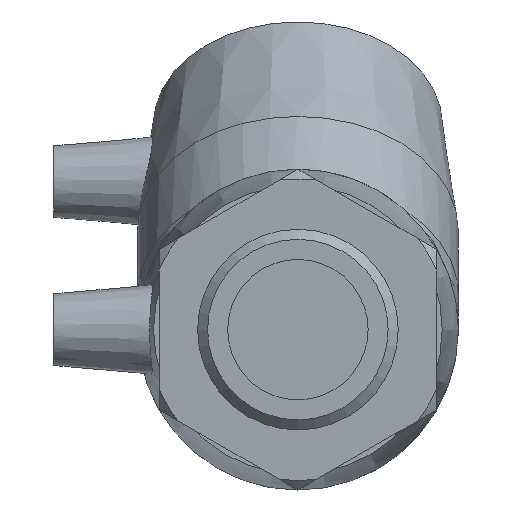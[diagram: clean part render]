
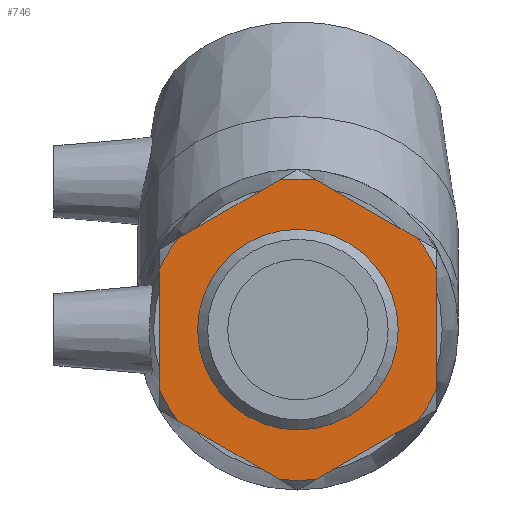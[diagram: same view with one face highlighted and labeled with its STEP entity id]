
A CAD part, left-side view. The second image highlights one B-rep face of the part: STEP entity #746.
In plain terms, the highlighted planar face has unit normal (-1, 0, 0).
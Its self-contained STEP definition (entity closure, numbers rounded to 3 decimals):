
#19=LINE('',#1163,#37);
#23=LINE('',#1187,#41);
#26=LINE('',#1209,#44);
#29=LINE('',#1231,#47);
#34=LINE('',#1268,#52);
#36=LINE('',#1287,#54);
#37=VECTOR('',#926,24.489);
#41=VECTOR('',#932,24.489);
#44=VECTOR('',#937,24.489);
#47=VECTOR('',#942,24.489);
#52=VECTOR('',#949,24.489);
#54=VECTOR('',#953,24.489);
#101=PLANE('',#813);
#121=FACE_BOUND('',#228,.T.);
#165=FACE_OUTER_BOUND('',#227,.T.);
#227=EDGE_LOOP('',(#584,#585,#586,#587,#588,#589,#590,#591,#592,#593,#594,
#595));
#228=EDGE_LOOP('',(#596));
#315=CIRCLE('',#806,20.955);
#316=CIRCLE('',#814,31.49);
#317=CIRCLE('',#815,31.49);
#318=CIRCLE('',#816,31.49);
#319=CIRCLE('',#817,31.49);
#320=CIRCLE('',#818,31.49);
#321=CIRCLE('',#819,31.49);
#364=VERTEX_POINT('',#1154);
#365=VERTEX_POINT('',#1157);
#367=VERTEX_POINT('',#1162);
#373=VERTEX_POINT('',#1182);
#374=VERTEX_POINT('',#1186);
#379=VERTEX_POINT('',#1204);
#380=VERTEX_POINT('',#1208);
#385=VERTEX_POINT('',#1226);
#386=VERTEX_POINT('',#1230);
#392=VERTEX_POINT('',#1249);
#396=VERTEX_POINT('',#1264);
#397=VERTEX_POINT('',#1270);
#400=VERTEX_POINT('',#1283);
#439=EDGE_CURVE('',#364,#364,#315,.T.);
#441=EDGE_CURVE('',#367,#365,#19,.T.);
#449=EDGE_CURVE('',#374,#373,#23,.T.);
#456=EDGE_CURVE('',#380,#379,#26,.T.);
#463=EDGE_CURVE('',#386,#385,#29,.T.);
#475=EDGE_CURVE('',#392,#396,#34,.T.);
#481=EDGE_CURVE('',#397,#400,#36,.T.);
#482=EDGE_CURVE('',#392,#400,#316,.T.);
#483=EDGE_CURVE('',#386,#396,#317,.T.);
#484=EDGE_CURVE('',#380,#385,#318,.T.);
#485=EDGE_CURVE('',#374,#379,#319,.T.);
#486=EDGE_CURVE('',#367,#373,#320,.T.);
#487=EDGE_CURVE('',#397,#365,#321,.T.);
#584=ORIENTED_EDGE('',*,*,#481,.T.);
#585=ORIENTED_EDGE('',*,*,#482,.F.);
#586=ORIENTED_EDGE('',*,*,#475,.T.);
#587=ORIENTED_EDGE('',*,*,#483,.F.);
#588=ORIENTED_EDGE('',*,*,#463,.T.);
#589=ORIENTED_EDGE('',*,*,#484,.F.);
#590=ORIENTED_EDGE('',*,*,#456,.T.);
#591=ORIENTED_EDGE('',*,*,#485,.F.);
#592=ORIENTED_EDGE('',*,*,#449,.T.);
#593=ORIENTED_EDGE('',*,*,#486,.F.);
#594=ORIENTED_EDGE('',*,*,#441,.T.);
#595=ORIENTED_EDGE('',*,*,#487,.F.);
#596=ORIENTED_EDGE('',*,*,#439,.T.);
#746=ADVANCED_FACE('',(#165,#121),#101,.T.);
#806=AXIS2_PLACEMENT_3D('',#1155,#922,#923);
#813=AXIS2_PLACEMENT_3D('',#1288,#954,#955);
#814=AXIS2_PLACEMENT_3D('',#1289,#956,#957);
#815=AXIS2_PLACEMENT_3D('',#1290,#958,#959);
#816=AXIS2_PLACEMENT_3D('',#1291,#960,#961);
#817=AXIS2_PLACEMENT_3D('',#1292,#962,#963);
#818=AXIS2_PLACEMENT_3D('',#1293,#964,#965);
#819=AXIS2_PLACEMENT_3D('',#1294,#966,#967);
#922=DIRECTION('center_axis',(1.,0.,0.));
#923=DIRECTION('ref_axis',(0.,0.,-1.));
#926=DIRECTION('',(0.,0.,-1.));
#932=DIRECTION('',(0.,0.866,-0.5));
#937=DIRECTION('',(0.,0.866,0.5));
#942=DIRECTION('',(0.,0.,1.));
#949=DIRECTION('',(0.,-0.866,0.5));
#953=DIRECTION('',(0.,-0.866,-0.5));
#954=DIRECTION('center_axis',(-1.,0.,0.));
#955=DIRECTION('ref_axis',(0.,0.,1.));
#956=DIRECTION('center_axis',(1.,0.,0.));
#957=DIRECTION('ref_axis',(0.,0.,1.));
#958=DIRECTION('center_axis',(1.,0.,0.));
#959=DIRECTION('ref_axis',(0.,0.,1.));
#960=DIRECTION('center_axis',(1.,0.,0.));
#961=DIRECTION('ref_axis',(0.,0.,1.));
#962=DIRECTION('center_axis',(1.,0.,0.));
#963=DIRECTION('ref_axis',(0.,0.,1.));
#964=DIRECTION('center_axis',(1.,0.,0.));
#965=DIRECTION('ref_axis',(0.,0.,1.));
#966=DIRECTION('center_axis',(1.,0.,0.));
#967=DIRECTION('ref_axis',(0.,0.,1.));
#1154=CARTESIAN_POINT('',(-69.835,0.,-20.955));
#1155=CARTESIAN_POINT('Origin',(-69.835,0.,0.));
#1157=CARTESIAN_POINT('',(-69.835,29.012,-12.245));
#1162=CARTESIAN_POINT('',(-69.835,29.012,12.245));
#1163=CARTESIAN_POINT('',(-69.835,29.012,-25.125));
#1182=CARTESIAN_POINT('',(-69.835,25.11,19.003));
#1186=CARTESIAN_POINT('',(-69.835,3.902,31.247));
#1187=CARTESIAN_POINT('',(-69.835,29.012,16.75));
#1204=CARTESIAN_POINT('',(-69.835,-3.902,31.247));
#1208=CARTESIAN_POINT('',(-69.835,-25.11,19.003));
#1209=CARTESIAN_POINT('',(-69.835,-14.506,25.125));
#1226=CARTESIAN_POINT('',(-69.835,-29.012,12.245));
#1230=CARTESIAN_POINT('',(-69.835,-29.012,-12.245));
#1231=CARTESIAN_POINT('',(-69.835,-29.012,-8.375));
#1249=CARTESIAN_POINT('',(-69.835,-3.902,-31.247));
#1264=CARTESIAN_POINT('',(-69.835,-25.11,-19.003));
#1268=CARTESIAN_POINT('',(-69.835,-14.506,-25.125));
#1270=CARTESIAN_POINT('',(-69.835,25.11,-19.003));
#1283=CARTESIAN_POINT('',(-69.835,3.902,-31.247));
#1287=CARTESIAN_POINT('',(-69.835,0.,-33.5));
#1288=CARTESIAN_POINT('Origin',(-69.835,0.,-33.5));
#1289=CARTESIAN_POINT('Origin',(-69.835,0.,0.));
#1290=CARTESIAN_POINT('Origin',(-69.835,0.,0.));
#1291=CARTESIAN_POINT('Origin',(-69.835,0.,0.));
#1292=CARTESIAN_POINT('Origin',(-69.835,0.,0.));
#1293=CARTESIAN_POINT('Origin',(-69.835,0.,0.));
#1294=CARTESIAN_POINT('Origin',(-69.835,0.,0.));
